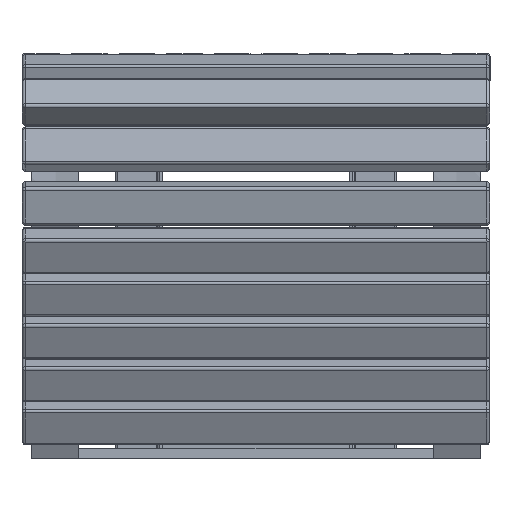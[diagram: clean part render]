
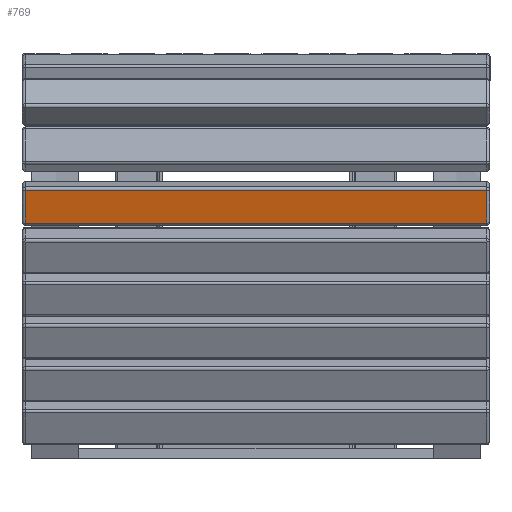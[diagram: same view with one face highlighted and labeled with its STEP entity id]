
A CAD part, left-side view. The second image highlights one B-rep face of the part: STEP entity #769.
In plain terms, the highlighted planar face has unit normal (-0.975, 0, -0.222).
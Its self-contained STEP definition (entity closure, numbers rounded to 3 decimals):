
#769=ADVANCED_FACE('',(#1749),#12987,.T.);
#1749=FACE_OUTER_BOUND('',#2739,.T.);
#2739=EDGE_LOOP('',(#4394,#4395,#4396,#4397));
#4394=ORIENTED_EDGE('',*,*,#8055,.F.);
#4395=ORIENTED_EDGE('',*,*,#8071,.F.);
#4396=ORIENTED_EDGE('',*,*,#8067,.F.);
#4397=ORIENTED_EDGE('',*,*,#8062,.F.);
#8055=EDGE_CURVE('',#11990,#11986,#10639,.T.);
#8062=EDGE_CURVE('',#11986,#11976,#10646,.T.);
#8067=EDGE_CURVE('',#11976,#11982,#10651,.T.);
#8071=EDGE_CURVE('',#11982,#11990,#9783,.T.);
#9783=B_SPLINE_CURVE_WITH_KNOTS('',1,(#16941,#16942),.UNSPECIFIED.,.F.,
 .F.,(2,2),(-12.2,37.2),.UNSPECIFIED.);
#10639=(
BOUNDED_CURVE()
B_SPLINE_CURVE(1,(#16909,#16910),.UNSPECIFIED.,.F.,.F.)
B_SPLINE_CURVE_WITH_KNOTS((2,2),(-9.5,2.5),
 .UNSPECIFIED.)
CURVE()
GEOMETRIC_REPRESENTATION_ITEM()
RATIONAL_B_SPLINE_CURVE((1.,1.))
REPRESENTATION_ITEM('')
);
#10646=(
BOUNDED_CURVE()
B_SPLINE_CURVE(1,(#16923,#16924),.UNSPECIFIED.,.F.,.F.)
B_SPLINE_CURVE_WITH_KNOTS((2,2),(-124.,40.667),.UNSPECIFIED.)
CURVE()
GEOMETRIC_REPRESENTATION_ITEM()
RATIONAL_B_SPLINE_CURVE((1.,1.))
REPRESENTATION_ITEM('')
);
#10651=(
BOUNDED_CURVE()
B_SPLINE_CURVE(1,(#16933,#16934),.UNSPECIFIED.,.F.,.F.)
B_SPLINE_CURVE_WITH_KNOTS((2,2),(-9.5,2.5),
 .UNSPECIFIED.)
CURVE()
GEOMETRIC_REPRESENTATION_ITEM()
RATIONAL_B_SPLINE_CURVE((1.,1.))
REPRESENTATION_ITEM('')
);
#11976=VERTEX_POINT('',#16797);
#11982=VERTEX_POINT('',#16803);
#11986=VERTEX_POINT('',#16807);
#11990=VERTEX_POINT('',#16811);
#12987=PLANE('',#13963);
#13963=AXIS2_PLACEMENT_3D('',#16738,#14173,$);
#14173=DIRECTION('',(-0.975,0.,-0.222));
#16738=CARTESIAN_POINT('',(8.067,3.99,251.698));
#16797=CARTESIAN_POINT('',(8.065,498.,251.708));
#16803=CARTESIAN_POINT('',(0.075,498.,286.81));
#16807=CARTESIAN_POINT('',(8.065,4.,251.708));
#16811=CARTESIAN_POINT('',(0.075,4.,286.81));
#16909=CARTESIAN_POINT('',(0.075,4.,286.81));
#16910=CARTESIAN_POINT('',(8.065,4.,251.708));
#16923=CARTESIAN_POINT('',(8.065,4.,251.708));
#16924=CARTESIAN_POINT('',(8.065,498.,251.708));
#16933=CARTESIAN_POINT('',(8.065,498.,251.708));
#16934=CARTESIAN_POINT('',(0.075,498.,286.81));
#16941=CARTESIAN_POINT('',(0.075,498.,286.81));
#16942=CARTESIAN_POINT('',(0.075,4.,286.81));
